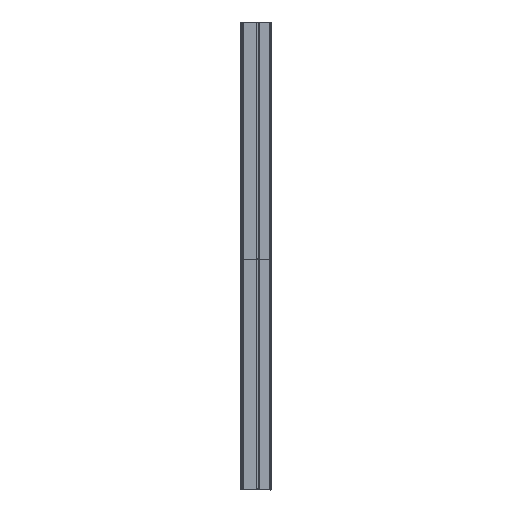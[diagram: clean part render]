
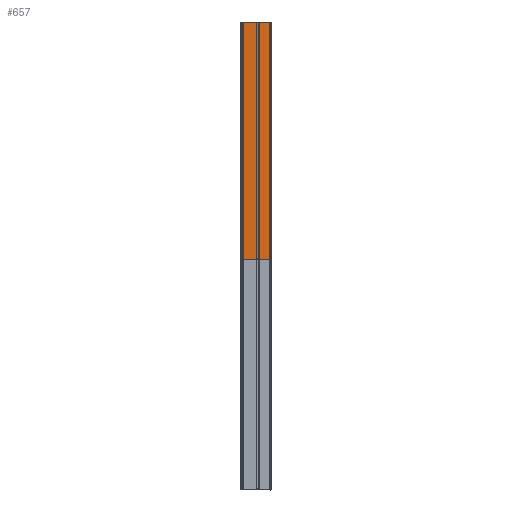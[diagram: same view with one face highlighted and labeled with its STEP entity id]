
A CAD part, left-side view. The second image highlights one B-rep face of the part: STEP entity #657.
In plain terms, the highlighted planar face has unit normal (-1, 0, 0).
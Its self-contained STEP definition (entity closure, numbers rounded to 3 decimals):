
#657=ADVANCED_FACE('',(#2487),#2489,.T.);
#2487=FACE_BOUND('',#2488,.T.);
#2488=EDGE_LOOP('',(#9075,#9076,#9077,#9078));
#2489=PLANE('',#2490);
#2490=AXIS2_PLACEMENT_3D('',#2491,#2492,#2493);
#2491=CARTESIAN_POINT('',(-25.,4.,-268.));
#2492=DIRECTION('',(-1.,0.,0.));
#2493=DIRECTION('',(0.,-1.,0.));
#9075=ORIENTED_EDGE('',*,*,#13420,.T.);
#9076=ORIENTED_EDGE('',*,*,#13797,.T.);
#9077=ORIENTED_EDGE('',*,*,#13638,.F.);
#9078=ORIENTED_EDGE('',*,*,#13798,.F.);
#13420=EDGE_CURVE('',#16061,#16059,#16062,.F.);
#13638=EDGE_CURVE('',#16492,#16223,#16494,.T.);
#13797=EDGE_CURVE('',#16059,#16223,#16706,.T.);
#13798=EDGE_CURVE('',#16061,#16492,#16707,.T.);
#16059=VERTEX_POINT('',#20574);
#16061=VERTEX_POINT('',#20579);
#16062=LINE('',#20580,#20581);
#16223=VERTEX_POINT('',#20960);
#16492=VERTEX_POINT('',#21580);
#16494=LINE('',#21585,#21586);
#16706=LINE('',#22148,#22149);
#16707=LINE('',#22151,#22152);
#20574=CARTESIAN_POINT('',(-25.,-63.75,-268.));
#20579=CARTESIAN_POINT('',(-25.,4.,-268.));
#20580=CARTESIAN_POINT('',(-25.,-63.75,-268.));
#20581=VECTOR('',#20582,1.);
#20582=DIRECTION('',(0.,1.,0.));
#20960=CARTESIAN_POINT('',(-25.,-63.75,268.));
#21580=CARTESIAN_POINT('',(-25.,4.,268.));
#21585=CARTESIAN_POINT('',(-25.,4.,268.));
#21586=VECTOR('',#21587,1.);
#21587=DIRECTION('',(0.,-1.,0.));
#22148=CARTESIAN_POINT('',(-25.,-63.75,-268.));
#22149=VECTOR('',#22150,1.);
#22150=DIRECTION('',(0.,0.,1.));
#22151=CARTESIAN_POINT('',(-25.,4.,-268.));
#22152=VECTOR('',#22153,1.);
#22153=DIRECTION('',(0.,0.,1.));
